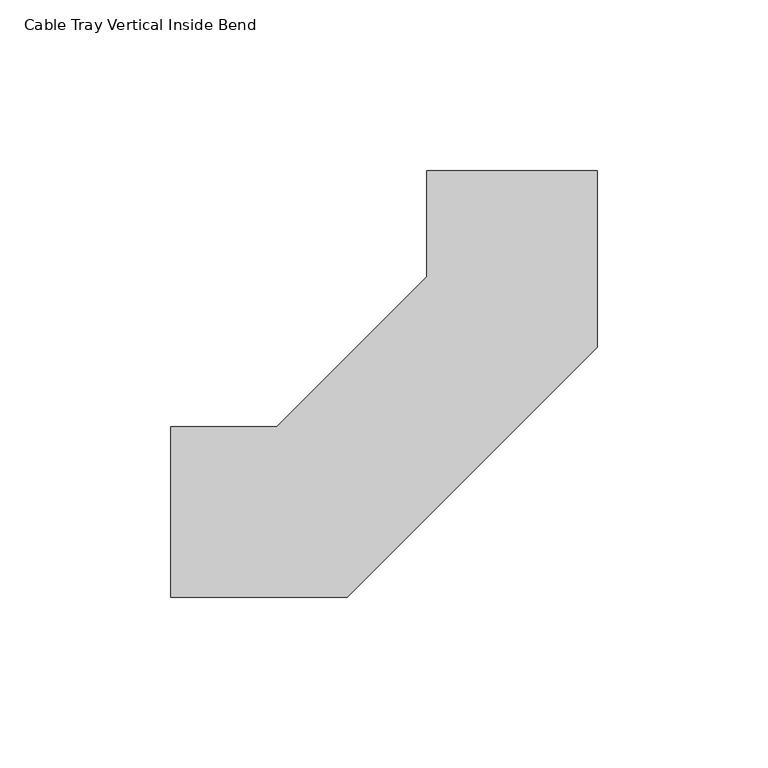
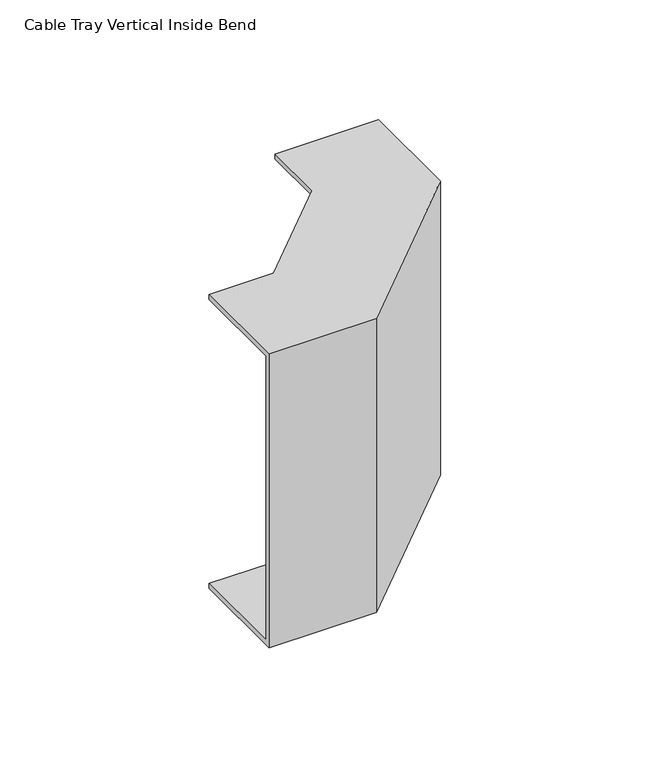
"""IFC4 building model written with IfcOpenShell, lengths in millimetres: cable carrier fitting geometry, Cable Tray Vertical Inside Bend : ELEC_ELV_CT_N2402."""

from ifc_helpers import new_model, si_unit, origin, place, context, project, spatial, faceted_brep, source, transform, mapped, element, save


def cable_tray_vertical_inside_bend_e31a4bf9(model_context):
    return source(origin(), model_context, "Body", "Brep", [
        faceted_brep([(-100.0, 25.0, 75.0), (-100.0, 25.0, 72.46), (-100.0, -22.46, 72.46), (-100.0, -22.46, -72.46), (-100.0, 25.0, -72.46), (-100.0, 25.0, -75.0), (-100.0, -25.0, -75.0), (-100.0, -25.0, 75.0), (-25.0, 100.0, 75.0), (25.0, 100.0, 75.0), (25.0, 100.0, -75.0), (-25.0, 100.0, -75.0), (-25.0, 100.0, -72.46), (22.46, 100.0, -72.46), (22.46, 100.0, 72.46), (-25.0, 100.0, 72.46), (-68.9339828, 25.0, 75.0), (-68.9339828, 25.0, 72.46), (-25.0, 68.9339828, 72.46), (22.46, 49.2754071, 72.46), (-49.2754071, -22.46, 72.46), (-49.2754071, -22.46, -72.46), (22.46, 49.2754071, -72.46), (-25.0, 68.9339828, -72.46), (-68.9339828, 25.0, -72.46), (-68.9339828, 25.0, -75.0), (-25.0, 68.9339828, -75.0), (25.0, 48.2233047, -75.0), (-48.2233047, -25.0, -75.0), (-48.2233047, -25.0, 75.0), (25.0, 48.2233047, 75.0), (-25.0, 68.9339828, 75.0)], [[[0, 1, 2, 3, 4, 5, 6, 7]], [[8, 9, 10, 11, 12, 13, 14, 15]], [[1, 0, 16, 17]], [[2, 1, 17, 18, 15, 14, 19, 20]], [[3, 2, 20, 21]], [[4, 3, 21, 22, 13, 12, 23, 24]], [[5, 4, 24, 25]], [[6, 5, 25, 26, 11, 10, 27, 28]], [[7, 6, 28, 29]], [[0, 7, 29, 30, 9, 8, 31, 16]], [[17, 16, 31, 18]], [[21, 20, 19, 22]], [[25, 24, 23, 26]], [[29, 28, 27, 30]], [[18, 31, 8, 15]], [[22, 19, 14, 13]], [[26, 23, 12, 11]], [[30, 27, 10, 9]]]),
    ])


if __name__ == "__main__":
    model = new_model("IFC4")
    model_context = context("Model", 3, world=origin())
    ifc_project = project(units=[si_unit("LENGTHUNIT", "METRE", prefix="MILLI")], contexts=[model_context])
    site = spatial("IfcSite", under=ifc_project)
    building = spatial("IfcBuilding", under=site)
    placement = place(None, origin())
    cable_tray_vertical_inside_bend_shape = cable_tray_vertical_inside_bend_e31a4bf9(model_context)
    element("IfcCableCarrierFitting", 1, ObjectType="Cable Tray Vertical Inside Bend : ELEC_ELV_CT_N2402", at=placement, inside=building, context=model_context, shape_type="MappedRepresentation", body=[
        mapped(cable_tray_vertical_inside_bend_shape, transform((0.0, 0.0, 0.0), x_axis=(1.0, 0.0, 0.0), y_axis=(0.0, 1.0, 0.0), z_axis=(0.0, 0.0, 1.0))),
    ])
    save(model, "model.ifc")
